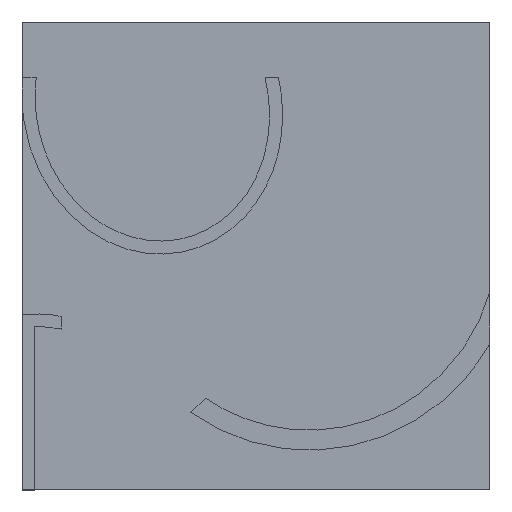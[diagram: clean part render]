
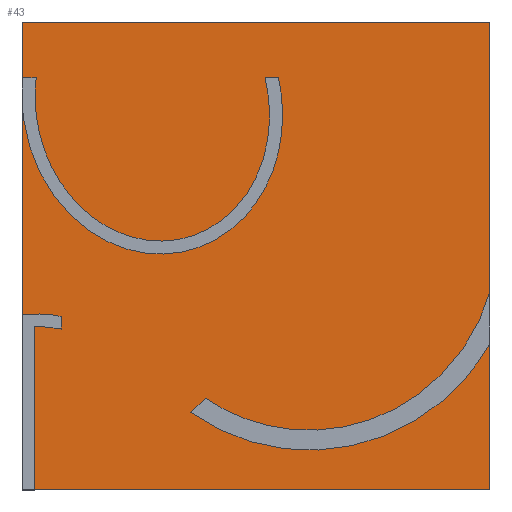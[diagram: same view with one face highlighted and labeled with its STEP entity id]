
A CAD part, top view. The second image highlights one B-rep face of the part: STEP entity #43.
In plain terms, the highlighted planar face has unit normal (0, 0, 1).
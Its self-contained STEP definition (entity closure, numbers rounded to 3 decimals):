
#43=ADVANCED_FACE('',(#72),#414,.T.);
#72=FACE_OUTER_BOUND('',#101,.T.);
#101=EDGE_LOOP('',(#145,#146,#147,#148));
#145=ORIENTED_EDGE('',*,*,#256,.T.);
#146=ORIENTED_EDGE('',*,*,#258,.T.);
#147=ORIENTED_EDGE('',*,*,#260,.T.);
#148=ORIENTED_EDGE('',*,*,#262,.T.);
#256=EDGE_CURVE('',#371,#372,#319,.T.);
#258=EDGE_CURVE('',#372,#373,#321,.T.);
#260=EDGE_CURVE('',#373,#374,#323,.T.);
#262=EDGE_CURVE('',#374,#371,#325,.T.);
#319=B_SPLINE_CURVE_WITH_KNOTS('',1,(#590,#591),.UNSPECIFIED.,.F.,.F.,(2,
2),(0.,2000.),.UNSPECIFIED.);
#321=B_SPLINE_CURVE_WITH_KNOTS('',1,(#594,#595),.UNSPECIFIED.,.F.,.F.,(2,
2),(0.,2000.),.UNSPECIFIED.);
#323=B_SPLINE_CURVE_WITH_KNOTS('',1,(#598,#599),.UNSPECIFIED.,.F.,.F.,(2,
2),(-2000.,0.),.UNSPECIFIED.);
#325=B_SPLINE_CURVE_WITH_KNOTS('',1,(#602,#603),.UNSPECIFIED.,.F.,.F.,(2,
2),(-2000.,0.),.UNSPECIFIED.);
#371=VERTEX_POINT('',#576);
#372=VERTEX_POINT('',#577);
#373=VERTEX_POINT('',#578);
#374=VERTEX_POINT('',#579);
#414=PLANE('',#523);
#523=AXIS2_PLACEMENT_3D('',#571,#547,$);
#547=DIRECTION('',(0.,0.,1.));
#571=CARTESIAN_POINT('',(3000.,3000.,12.));
#576=CARTESIAN_POINT('',(3000.,3000.,12.));
#577=CARTESIAN_POINT('',(0.,3000.,12.));
#578=CARTESIAN_POINT('',(0.,0.,12.));
#579=CARTESIAN_POINT('',(3000.,0.,12.));
#590=CARTESIAN_POINT('',(3000.,3000.,12.));
#591=CARTESIAN_POINT('',(0.,3000.,12.));
#594=CARTESIAN_POINT('',(0.,3000.,12.));
#595=CARTESIAN_POINT('',(0.,0.,12.));
#598=CARTESIAN_POINT('',(0.,0.,12.));
#599=CARTESIAN_POINT('',(3000.,0.,12.));
#602=CARTESIAN_POINT('',(3000.,0.,12.));
#603=CARTESIAN_POINT('',(3000.,3000.,12.));
